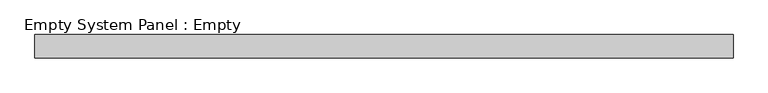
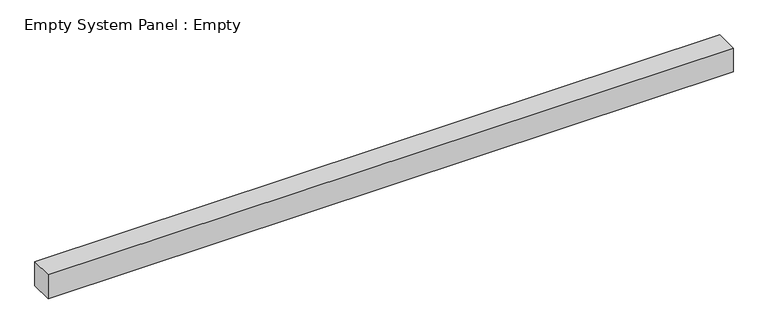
"""IFC4 building model written with IfcOpenShell, lengths in millimetres: plate geometry, Empty System Panel : Empty."""

from ifc_helpers import new_model, si_unit, origin, origin_with_axes, place, context, project, spatial, polyline, outline, extrude, source, transform, mapped, element, save


def empty_system_panel_empty_352cc956(model_context):
    return source(origin(), model_context, "Body", "SweptSolid", [
        extrude(outline(polyline([(1500.0, 50.0), (-1500.0, 50.0), (-1500.0, 150.0), (1500.0, 150.0), (1500.0, 50.0)])), origin_with_axes(), (0.0, 0.0, 1.0), 110.218741),
    ])


if __name__ == "__main__":
    model = new_model("IFC4")
    model_context = context("Model", 3, world=origin())
    ifc_project = project(units=[si_unit("LENGTHUNIT", "METRE", prefix="MILLI")], contexts=[model_context])
    site = spatial("IfcSite", under=ifc_project)
    building = spatial("IfcBuilding", under=site)
    placement = place(None, origin())
    empty_system_panel_empty_shape = empty_system_panel_empty_352cc956(model_context)
    element("IfcPlate", 1, ObjectType="Empty System Panel : Empty", at=placement, inside=building, context=model_context, shape_type="MappedRepresentation", body=[
        mapped(empty_system_panel_empty_shape, transform((0.0, 0.0, 0.0), x_axis=(1.0, 0.0, 0.0), y_axis=(0.0, 1.0, 0.0), z_axis=(0.0, 0.0, 1.0))),
    ])
    save(model, "model.ifc")
